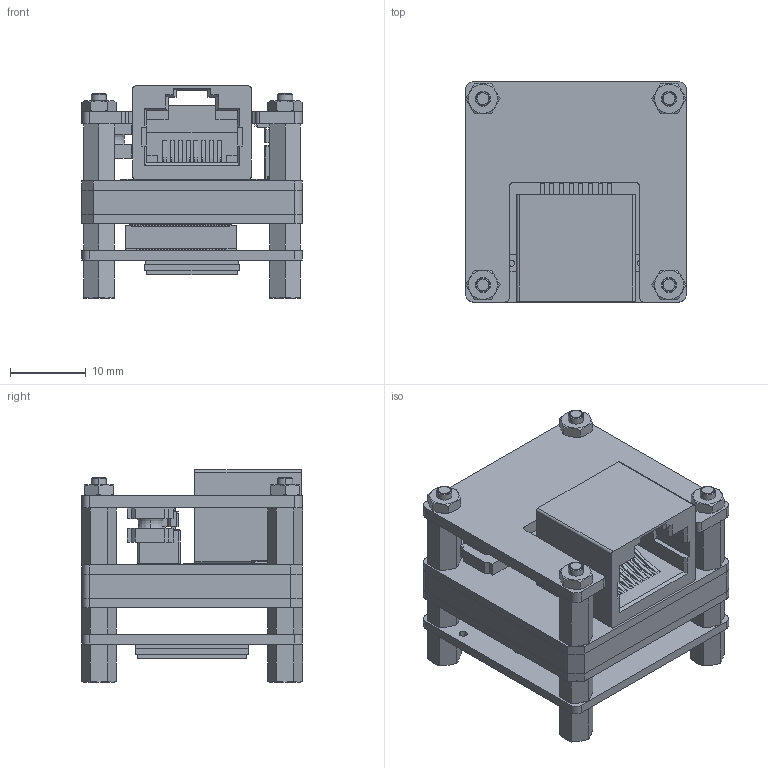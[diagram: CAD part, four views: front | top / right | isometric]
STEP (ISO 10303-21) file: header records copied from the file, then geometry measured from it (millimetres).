
FILE_DESCRIPTION((''),'2;1');
FILE_NAME('00-MV-CB060-10GMC-B_ASM','2026-05-19T20:57:32',('pengxianzu'),(''),'CREO PARAMETRIC BY PTC INC, 2020044','CREO PARAMETRIC BY PTC INC, 2020044','');
FILE_SCHEMA(('CONFIG_CONTROL_DESIGN'));
Products named in the file (22): MV-21169-REV10; IMX178; 101303452; MV-21169-REV10_ASM; ST-S4X5-M2X4-F2X4-B-193500013; DE-14-007765; MV-20146REV10; 101303451; MV-20146REV10_ASM; MV-23190REV10; MV-23190REV10_ASM; MV-23189REV10; 101301058; JD5288-1100W311T; MV-23189REV10_ASM; ST-S4X7__5-B2X4-F2X4-B; MV-22078REV10; 101303593; 100300607; MV-22078REV10_ASM; NUT-M2-GB6170; 00-MV-CB060-10GMC-B_ASM
Assembly tree (33 placements, depth 3):
  00-MV-CB060-10GMC-B_ASM
    MV-21169-REV10_ASM
      MV-21169-REV10
      IMX178
      101303452
    ST-S4X5-M2X4-F2X4-B-193500013  x4
    DE-14-007765  x4
    MV-20146REV10_ASM
      MV-20146REV10
      101303451
    MV-23190REV10_ASM
      MV-23190REV10
    MV-23189REV10_ASM
      MV-23189REV10
      101301058
      JD5288-1100W311T
    ST-S4X7__5-B2X4-F2X4-B  x4
    MV-22078REV10_ASM
      MV-22078REV10
      101303593
      100300607
    NUT-M2-GB6170  x4
Bounding box: 29.01 x 29.12 x 27.9 mm (x, y, z)
Volume: 7628.8 mm3; surface area: 14750.9 mm2
Topology: 28 solids, 49 shells, 3808 faces, 10448 edges, 6864 vertices
Faces by surface type: plane 2513, cylinder 1057, bspline 112, cone 108, torus 12, sphere 4, revolution 2
Entity records: 112207 total; most frequent: CARTESIAN_POINT 21636, ORIENTED_EDGE 19080, DIRECTION 18421, EDGE_CURVE 9550, VECTOR 7383, LINE 7383, VERTEX_POINT 6285, AXIS2_PLACEMENT_3D 5518
